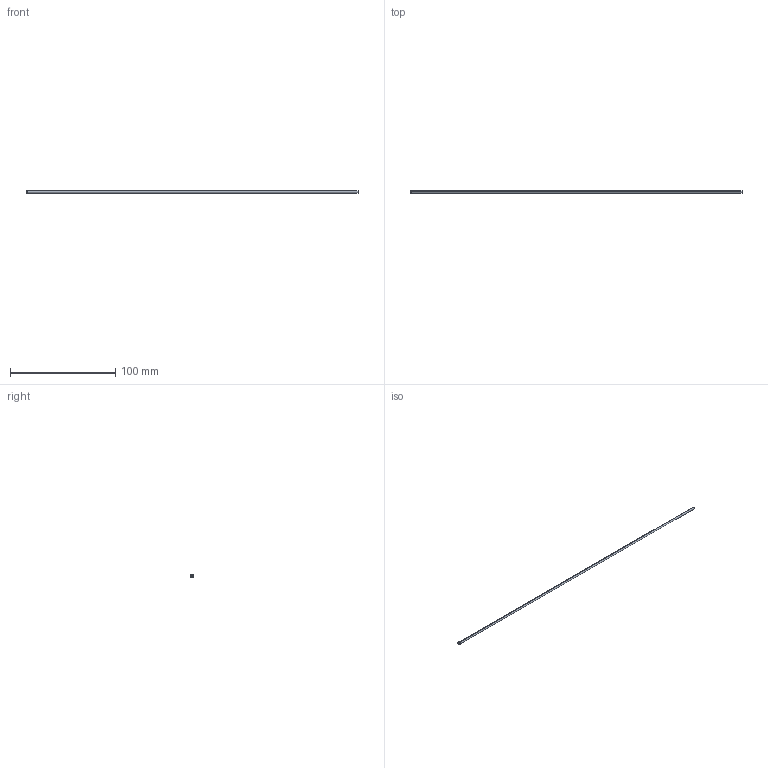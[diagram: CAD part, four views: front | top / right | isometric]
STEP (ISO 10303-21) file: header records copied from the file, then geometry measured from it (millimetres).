
FILE_DESCRIPTION (( 'STEP AP214' ), '1' );
FILE_NAME ('D-2x315.STEP', '2020-06-08T10:38:32', ( 'August' ), ( '' ), 'SwSTEP 2.0', 'SolidWorks 2018', '' );
FILE_SCHEMA (( 'AUTOMOTIVE_DESIGN' ));
Length unit declared in the file: millimetre
Products named in the file (1): D-2x315
Bounding box: 315 x 3 x 3 mm (x, y, z)
Volume: 993.2 mm3; surface area: 1993.4 mm2
Topology: 1 solids, 1 shells, 10 faces, 18 edges, 10 vertices
Faces by surface type: cylinder 4, torus 2, cone 2, plane 2
Entity records: 280 total; most frequent: DIRECTION 52, CARTESIAN_POINT 39, ORIENTED_EDGE 36, AXIS2_PLACEMENT_3D 23, EDGE_CURVE 18, CIRCLE 12, VERTEX_POINT 10, FACE_OUTER_BOUND 10
